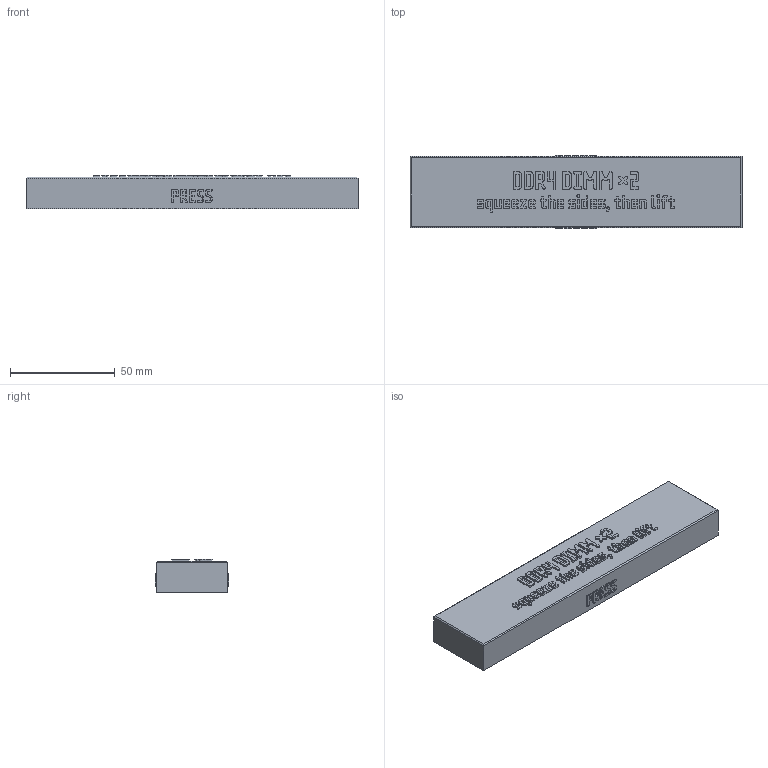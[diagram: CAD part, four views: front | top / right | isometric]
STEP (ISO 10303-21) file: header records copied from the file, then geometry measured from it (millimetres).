
FILE_DESCRIPTION(('Open CASCADE Model'),'2;1');
FILE_NAME('Open CASCADE Shape Model','2026-11-03T16:08:28',('Author'),( 'Open CASCADE'),'Open CASCADE STEP processor 8.0','build123d', 'Unknown');
FILE_SCHEMA(('AUTOMOTIVE_DESIGN { 1 0 10303 214 1 1 1 1 }'));
Products named in the file (1): COMPOUND
Bounding box: 158.5 x 35.1 x 15.8 mm (x, y, z)
Volume: 25679.1 mm3; surface area: 21893.1 mm2
Topology: 1 solids, 1 shells, 4355 faces, 12854 edges, 8568 vertices
Faces by surface type: plane 4355
Entity records: 309200 total; most frequent: CARTESIAN_POINT 51494, DIRECTION 47266, LINE 38554, VECTOR 38554, ORIENTED_EDGE 25708, PCURVE 25708, DEFINITIONAL_REPRESENTATION 25708, EDGE_CURVE 12854
